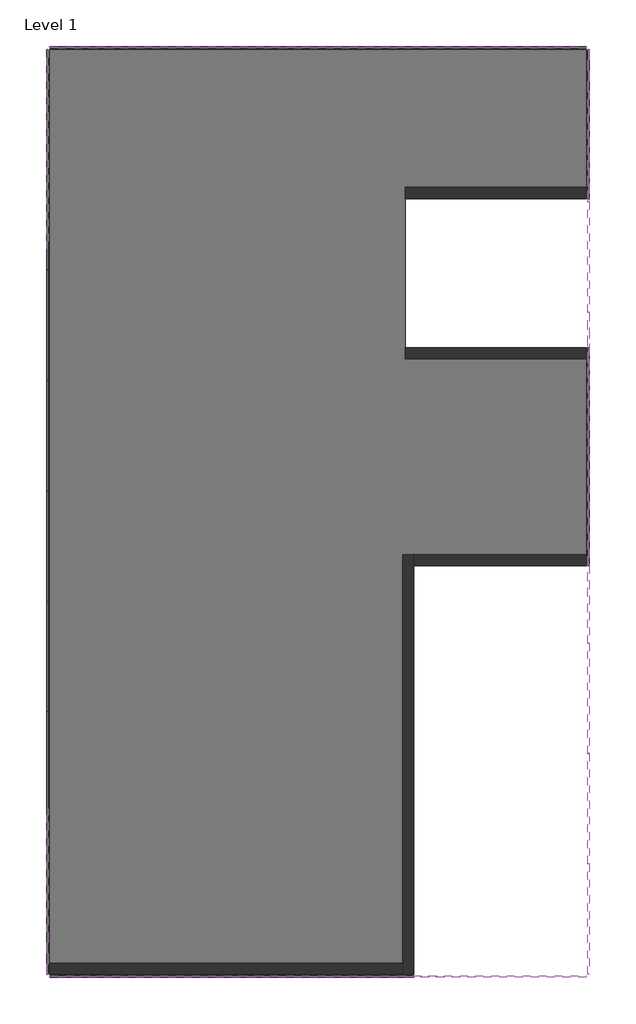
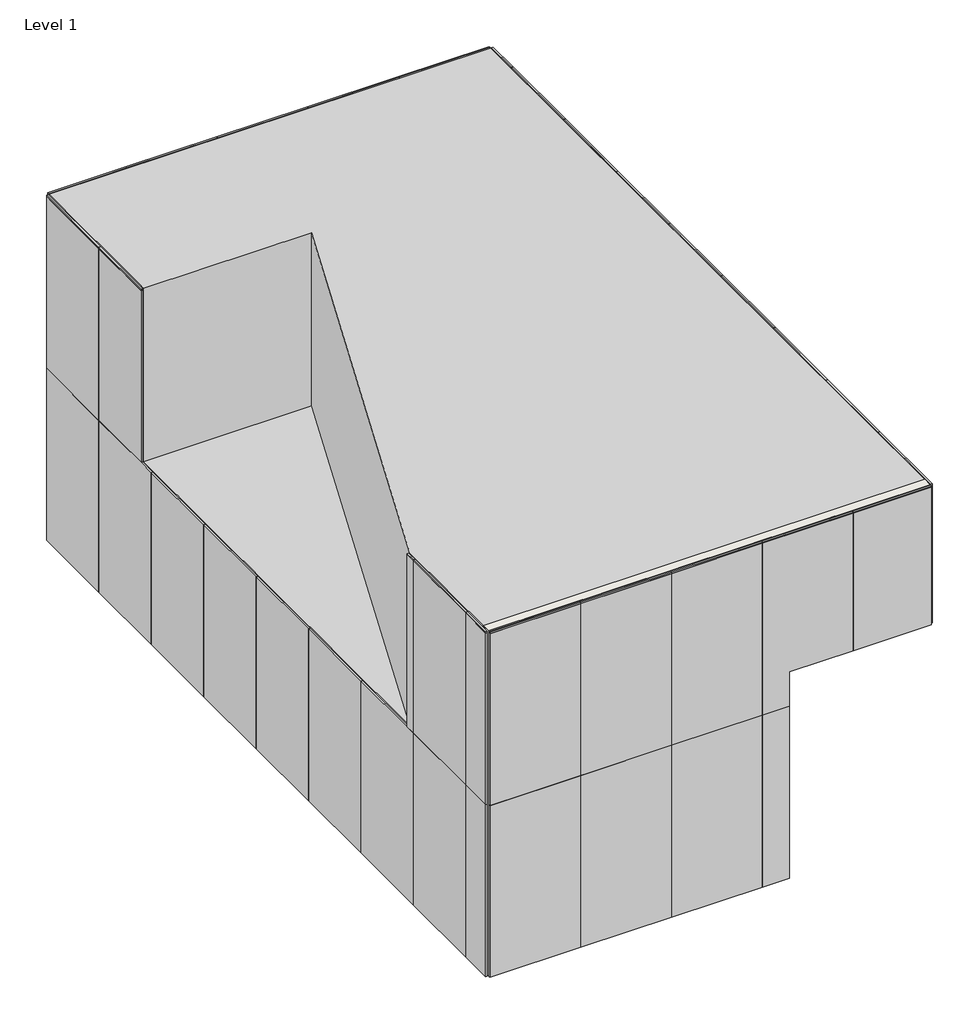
# One storey: 71 plates, 6 walls, 1 proxy.
"""IFC4 building model written with IfcOpenShell, lengths in millimetres."""

from ifc_helpers import new_model, si_unit, frame, origin, origin_with_axes, place, context, project, spatial, polyline, outline, extrude, faceted_brep, transform, mapped, element, save
from components import system_panel_glazed_9c75bc08, system_panel_glazed_dbbce7d1, system_panel_glazed_bcc47ddd, system_panel_glazed_01975426, system_panel_glazed_f9cdfe77, system_panel_glazed_33b4a288, system_panel_glazed_9cc7ea48, system_panel_glazed_2c779381, system_panel_glazed_080bd1f7, system_panel_glazed_f0492a79, system_panel_glazed_e3323f67, system_panel_glazed_fbe2ae63, system_panel_glazed_bfb795b8, system_panel_glazed_c9160bb2, system_panel_glazed_3cc902e7, system_panel_glazed_dad0aab0, system_panel_glazed_8171abf2, system_panel_glazed_a35de711, system_panel_glazed_52484c66, system_panel_glazed_7daea989, system_panel_glazed_eb9da898

model = new_model("IFC4")

# Units and contexts
model_context = context("Model", 3, world=origin())
ifc_project = project(units=[si_unit("LENGTHUNIT", "METRE", prefix="MILLI")], contexts=[model_context])

# Site, building, storey
site = spatial("IfcSite", under=ifc_project)
building = spatial("IfcBuilding", under=site)
storey = spatial("IfcBuildingStorey", under=building, Name="Level 1", Elevation=0.0)

# Proxy
placement = place(None, origin())
element("IfcBuildingElementProxy", 1, Name="Mass 1 : Mass 1", ObjectType="Mass 1 : Mass 1", at=placement, inside=storey, context=model_context, shape_type="Brep", body=[
    faceted_brep([(-622.4265962, 14992.5728951, 6120.0243608), (-8031.2536198, 14992.5728951, 6120.0243608), (-8031.2536198, 12243.8485961, 6120.0243608), (-5216.5646482, 12243.8485961, 6120.0243608), (-8031.2536198, 4510.5542041, 6120.0243608), (-8031.2536198, 2224.5542041, 6120.0243608), (-622.4265962, 2224.5542041, 6120.0243608), (-8031.2536198, 2224.5542041, 0.0), (-8031.2536198, 14992.5728951, 0.0), (-622.4265962, 14992.5728951, 0.0), (-622.4265962, 12938.7637381, 0.0), (-3119.607438, 12938.7637381, 0.0), (-3119.607438, 10878.7983929, 0.0), (-622.4265962, 10878.7983929, 0.0), (-622.4265962, 7863.3542041, 0.0), (-3002.0536198, 7863.3542041, 0.0), (-3002.0536198, 2224.5542041, 0.0), (-8031.2536198, 4510.5542041, 3048.0), (-8031.2536198, 12243.8485961, 3048.0), (-3002.0536198, 2224.5542041, 3657.6), (-622.4265962, 2224.5542041, 3657.6), (-622.4265962, 7863.3542041, 3657.6), (-622.4265962, 10878.7983929, 3657.6), (-622.4265962, 12938.7637381, 3657.6), (-3002.0536198, 7863.3542041, 3657.6), (-3119.607438, 12938.7637381, 3657.6), (-3119.607438, 10878.7983929, 3657.6), (-5216.5646482, 12243.8485961, 3048.0)], [[[0, 1, 2, 3, 4, 5, 6]], [[7, 8, 9, 10, 11, 12, 13, 14, 15, 16]], [[1, 0, 9, 8]], [[8, 7, 5, 4, 17, 18, 2, 1]], [[6, 5, 7, 16, 19, 20]], [[0, 6, 20, 21, 14, 13, 22, 23, 10, 9]], [[19, 24, 21, 20]], [[25, 23, 22, 26]], [[21, 24, 15, 14]], [[24, 19, 16, 15]], [[25, 26, 12, 11]], [[26, 22, 13, 12]], [[23, 25, 11, 10]], [[27, 18, 17]], [[18, 27, 3, 2]], [[27, 17, 4, 3]]]),
])

# Plates
system_panel_glazed_shape = system_panel_glazed_9c75bc08(model_context)
element("IfcPlate", 2, ObjectType="System Panel : Glazed", at=placement, inside=storey, context=model_context, shape_type="MappedRepresentation", body=[
    mapped(system_panel_glazed_shape, transform((-7269.2536198, 2224.5542041, 0.0), x_axis=(1.0, 0.0, 0.0), y_axis=(0.0, 1.0, 0.0), z_axis=(0.0, 0.0, 1.0))),
])
element("IfcPlate", 3, ObjectType="System Panel : Glazed", at=placement, inside=storey, context=model_context, shape_type="MappedRepresentation", body=[
    mapped(system_panel_glazed_shape, transform((-5745.2536198, 2224.5542041, 0.0), x_axis=(1.0, 0.0, 0.0), y_axis=(0.0, 1.0, 0.0), z_axis=(0.0, 0.0, 1.0))),
])
element("IfcPlate", 4, ObjectType="System Panel : Glazed", at=placement, inside=storey, context=model_context, shape_type="MappedRepresentation", body=[
    mapped(system_panel_glazed_shape, transform((-4221.2536198, 2224.5542041, 0.0), x_axis=(1.0, 0.0, 0.0), y_axis=(0.0, 1.0, 0.0), z_axis=(0.0, 0.0, 1.0))),
])
element("IfcPlate", 5, ObjectType="System Panel : Glazed", at=placement, inside=storey, context=model_context, shape_type="MappedRepresentation", body=[
    mapped(system_panel_glazed_shape, transform((-7269.2536198, 2224.5542041, 3048.0), x_axis=(1.0, 0.0, 0.0), y_axis=(0.0, 1.0, 0.0), z_axis=(0.0, 0.0, 1.0))),
])
element("IfcPlate", 6, ObjectType="System Panel : Glazed", at=placement, inside=storey, context=model_context, shape_type="MappedRepresentation", body=[
    mapped(system_panel_glazed_shape, transform((-5745.2536198, 2224.5542041, 3048.0), x_axis=(1.0, 0.0, 0.0), y_axis=(0.0, 1.0, 0.0), z_axis=(0.0, 0.0, 1.0))),
])
element("IfcPlate", 7, ObjectType="System Panel : Glazed", at=placement, inside=storey, context=model_context, shape_type="MappedRepresentation", body=[
    mapped(system_panel_glazed_shape, transform((-4221.2536198, 2224.5542041, 3048.0), x_axis=(1.0, 0.0, 0.0), y_axis=(0.0, 1.0, 0.0), z_axis=(0.0, 0.0, 1.0))),
])
element("IfcPlate", 8, ObjectType="System Panel : Glazed", at=placement, inside=storey, context=model_context, shape_type="MappedRepresentation", body=[
    mapped(system_panel_glazed_shape, transform((-622.4265962, 9082.5542041, 0.0), x_axis=(0.0, 1.0, 0.0), y_axis=(-1.0, 0.0, 0.0), z_axis=(0.0, 0.0, 1.0))),
])
element("IfcPlate", 9, ObjectType="System Panel : Glazed", at=placement, inside=storey, context=model_context, shape_type="MappedRepresentation", body=[
    mapped(system_panel_glazed_shape, transform((-622.4265962, 9082.5542041, 3048.0), x_axis=(0.0, 1.0, 0.0), y_axis=(-1.0, 0.0, 0.0), z_axis=(0.0, 0.0, 1.0))),
])
element("IfcPlate", 10, ObjectType="System Panel : Glazed", at=placement, inside=storey, context=model_context, shape_type="MappedRepresentation", body=[
    mapped(system_panel_glazed_shape, transform((-1384.4265962, 14992.5728951, 0.0), x_axis=(-1.0, 0.0, 0.0), y_axis=(0.0, -1.0, 0.0), z_axis=(0.0, 0.0, 1.0))),
])
element("IfcPlate", 11, ObjectType="System Panel : Glazed", at=placement, inside=storey, context=model_context, shape_type="MappedRepresentation", body=[
    mapped(system_panel_glazed_shape, transform((-2908.4265962, 14992.5728951, 0.0), x_axis=(-1.0, 0.0, 0.0), y_axis=(0.0, -1.0, 0.0), z_axis=(0.0, 0.0, 1.0))),
])
element("IfcPlate", 12, ObjectType="System Panel : Glazed", at=placement, inside=storey, context=model_context, shape_type="MappedRepresentation", body=[
    mapped(system_panel_glazed_shape, transform((-4432.4265962, 14992.5728951, 0.0), x_axis=(-1.0, 0.0, 0.0), y_axis=(0.0, -1.0, 0.0), z_axis=(0.0, 0.0, 1.0))),
])
element("IfcPlate", 13, ObjectType="System Panel : Glazed", at=placement, inside=storey, context=model_context, shape_type="MappedRepresentation", body=[
    mapped(system_panel_glazed_shape, transform((-5956.4265962, 14992.5728951, 0.0), x_axis=(-1.0, 0.0, 0.0), y_axis=(0.0, -1.0, 0.0), z_axis=(0.0, 0.0, 1.0))),
])
element("IfcPlate", 14, ObjectType="System Panel : Glazed", at=placement, inside=storey, context=model_context, shape_type="MappedRepresentation", body=[
    mapped(system_panel_glazed_shape, transform((-1384.4265962, 14992.5728951, 3048.0), x_axis=(-1.0, 0.0, 0.0), y_axis=(0.0, -1.0, 0.0), z_axis=(0.0, 0.0, 1.0))),
])
element("IfcPlate", 15, ObjectType="System Panel : Glazed", at=placement, inside=storey, context=model_context, shape_type="MappedRepresentation", body=[
    mapped(system_panel_glazed_shape, transform((-2908.4265962, 14992.5728951, 3048.0), x_axis=(-1.0, 0.0, 0.0), y_axis=(0.0, -1.0, 0.0), z_axis=(0.0, 0.0, 1.0))),
])
element("IfcPlate", 16, ObjectType="System Panel : Glazed", at=placement, inside=storey, context=model_context, shape_type="MappedRepresentation", body=[
    mapped(system_panel_glazed_shape, transform((-4432.4265962, 14992.5728951, 3048.0), x_axis=(-1.0, 0.0, 0.0), y_axis=(0.0, -1.0, 0.0), z_axis=(0.0, 0.0, 1.0))),
])
element("IfcPlate", 17, ObjectType="System Panel : Glazed", at=placement, inside=storey, context=model_context, shape_type="MappedRepresentation", body=[
    mapped(system_panel_glazed_shape, transform((-5956.4265962, 14992.5728951, 3048.0), x_axis=(-1.0, 0.0, 0.0), y_axis=(0.0, -1.0, 0.0), z_axis=(0.0, 0.0, 1.0))),
])
element("IfcPlate", 18, ObjectType="System Panel : Glazed", at=placement, inside=storey, context=model_context, shape_type="MappedRepresentation", body=[
    mapped(system_panel_glazed_shape, transform((-8031.2536198, 14230.5728951, 0.0), x_axis=(0.0, -1.0, 0.0), y_axis=(1.0, 0.0, 0.0), z_axis=(0.0, 0.0, 1.0))),
])
element("IfcPlate", 19, ObjectType="System Panel : Glazed", at=placement, inside=storey, context=model_context, shape_type="MappedRepresentation", body=[
    mapped(system_panel_glazed_shape, transform((-8031.2536198, 9658.5728951, 0.0), x_axis=(0.0, -1.0, 0.0), y_axis=(1.0, 0.0, 0.0), z_axis=(0.0, 0.0, 1.0))),
])
element("IfcPlate", 20, ObjectType="System Panel : Glazed", at=placement, inside=storey, context=model_context, shape_type="MappedRepresentation", body=[
    mapped(system_panel_glazed_shape, transform((-8031.2536198, 8134.5728951, 0.0), x_axis=(0.0, -1.0, 0.0), y_axis=(1.0, 0.0, 0.0), z_axis=(0.0, 0.0, 1.0))),
])
element("IfcPlate", 21, ObjectType="System Panel : Glazed", at=placement, inside=storey, context=model_context, shape_type="MappedRepresentation", body=[
    mapped(system_panel_glazed_shape, transform((-8031.2536198, 6610.5728951, 0.0), x_axis=(0.0, -1.0, 0.0), y_axis=(1.0, 0.0, 0.0), z_axis=(0.0, 0.0, 1.0))),
])
element("IfcPlate", 22, ObjectType="System Panel : Glazed", at=placement, inside=storey, context=model_context, shape_type="MappedRepresentation", body=[
    mapped(system_panel_glazed_shape, transform((-8031.2536198, 3562.5728951, 0.0), x_axis=(0.0, -1.0, 0.0), y_axis=(1.0, 0.0, 0.0), z_axis=(0.0, 0.0, 1.0))),
])
element("IfcPlate", 23, ObjectType="System Panel : Glazed", at=placement, inside=storey, context=model_context, shape_type="MappedRepresentation", body=[
    mapped(system_panel_glazed_shape, transform((-8031.2536198, 14230.5728951, 3048.0), x_axis=(0.0, -1.0, 0.0), y_axis=(1.0, 0.0, 0.0), z_axis=(0.0, 0.0, 1.0))),
])
element("IfcPlate", 24, ObjectType="System Panel : Glazed", at=placement, inside=storey, context=model_context, shape_type="MappedRepresentation", body=[
    mapped(system_panel_glazed_shape, transform((-8031.2536198, 3562.5728951, 3048.0), x_axis=(0.0, -1.0, 0.0), y_axis=(1.0, 0.0, 0.0), z_axis=(0.0, 0.0, 1.0))),
])
element("IfcPlate", 25, ObjectType="System Panel : Glazed", at=placement, inside=storey, context=model_context, shape_type="MappedRepresentation", body=[
    mapped(system_panel_glazed_shape, transform((-8031.2536198, 11182.5728951, 0.0), x_axis=(0.0, -1.0, 0.0), y_axis=(1.0, 0.0, 0.0), z_axis=(0.0, 0.0, 1.0))),
])
system_panel_glazed_2_shape = system_panel_glazed_dbbce7d1(model_context)
element("IfcPlate", 26, ObjectType="System Panel : Glazed", at=placement, inside=storey, context=model_context, shape_type="MappedRepresentation", body=[
    mapped(system_panel_glazed_2_shape, transform((-3230.6536198, 2224.5542041, 0.0), x_axis=(1.0, 0.0, 0.0), y_axis=(0.0, 1.0, 0.0), z_axis=(0.0, 0.0, 1.0))),
])
element("IfcPlate", 27, ObjectType="System Panel : Glazed", at=placement, inside=storey, context=model_context, shape_type="MappedRepresentation", body=[
    mapped(system_panel_glazed_2_shape, transform((-622.4265962, 8091.9542041, 0.0), x_axis=(0.0, 1.0, 0.0), y_axis=(-1.0, 0.0, 0.0), z_axis=(0.0, 0.0, 1.0))),
])
system_panel_glazed_3_shape = system_panel_glazed_bcc47ddd(model_context)
element("IfcPlate", 28, ObjectType="System Panel : Glazed", at=placement, inside=storey, context=model_context, shape_type="MappedRepresentation", body=[
    mapped(system_panel_glazed_3_shape, transform((-622.4265962, 10361.6762985, 0.0), x_axis=(0.0, 1.0, 0.0), y_axis=(-1.0, 0.0, 0.0), z_axis=(0.0, 0.0, 1.0))),
])
system_panel_glazed_4_shape = system_panel_glazed_01975426(model_context)
element("IfcPlate", 29, ObjectType="System Panel : Glazed", at=placement, inside=storey, context=model_context, shape_type="MappedRepresentation", body=[
    mapped(system_panel_glazed_4_shape, transform((-622.4265962, 13677.6589711, 0.0), x_axis=(0.0, 1.0, 0.0), y_axis=(-1.0, 0.0, 0.0), z_axis=(0.0, 0.0, 1.0))),
])
system_panel_glazed_5_shape = system_panel_glazed_f9cdfe77(model_context)
element("IfcPlate", 30, ObjectType="System Panel : Glazed", at=placement, inside=storey, context=model_context, shape_type="MappedRepresentation", body=[
    mapped(system_panel_glazed_5_shape, transform((-622.4265962, 14704.5635496, 0.0), x_axis=(0.0, 1.0, 0.0), y_axis=(-1.0, 0.0, 0.0), z_axis=(0.0, 0.0, 1.0))),
])
element("IfcPlate", 31, ObjectType="System Panel : Glazed", at=placement, inside=storey, context=model_context, shape_type="MappedRepresentation", body=[
    mapped(system_panel_glazed_5_shape, transform((-622.4265962, 14704.5635496, 3048.0), x_axis=(0.0, 1.0, 0.0), y_axis=(-1.0, 0.0, 0.0), z_axis=(0.0, 0.0, 1.0))),
])
element("IfcPlate", 32, ObjectType="System Panel : Glazed", at=placement, inside=storey, context=model_context, shape_type="MappedRepresentation", body=[
    mapped(system_panel_glazed_5_shape, transform((-8031.2536198, 2512.5635496, 0.0), x_axis=(0.0, -1.0, 0.0), y_axis=(1.0, 0.0, 0.0), z_axis=(0.0, 0.0, 1.0))),
])
element("IfcPlate", 33, ObjectType="System Panel : Glazed", at=placement, inside=storey, context=model_context, shape_type="MappedRepresentation", body=[
    mapped(system_panel_glazed_5_shape, transform((-8031.2536198, 2512.5635496, 3048.0), x_axis=(0.0, -1.0, 0.0), y_axis=(1.0, 0.0, 0.0), z_axis=(0.0, 0.0, 1.0))),
])
system_panel_glazed_6_shape = system_panel_glazed_33b4a288(model_context)
element("IfcPlate", 34, ObjectType="System Panel : Glazed", at=placement, inside=storey, context=model_context, shape_type="MappedRepresentation", body=[
    mapped(system_panel_glazed_6_shape, transform((-7374.840108, 14992.5728951, 0.0), x_axis=(-1.0, 0.0, 0.0), y_axis=(0.0, -1.0, 0.0), z_axis=(0.0, 0.0, 1.0))),
])
element("IfcPlate", 35, ObjectType="System Panel : Glazed", at=placement, inside=storey, context=model_context, shape_type="MappedRepresentation", body=[
    mapped(system_panel_glazed_6_shape, transform((-7374.840108, 14992.5728951, 3048.0), x_axis=(-1.0, 0.0, 0.0), y_axis=(0.0, -1.0, 0.0), z_axis=(0.0, 0.0, 1.0))),
])
system_panel_glazed_7_shape = system_panel_glazed_9cc7ea48(model_context)
element("IfcPlate", 36, ObjectType="System Panel : Glazed", at=placement, inside=storey, context=model_context, shape_type="MappedRepresentation", body=[
    mapped(system_panel_glazed_7_shape, transform((-8031.2536198, 5086.5728951, 0.0), x_axis=(0.0, -1.0, 0.0), y_axis=(1.0, 0.0, 0.0), z_axis=(0.0, 0.0, 1.0))),
])
system_panel_glazed_8_shape = system_panel_glazed_2c779381(model_context)
element("IfcPlate", 37, ObjectType="System Panel : Glazed", at=placement, inside=storey, context=model_context, shape_type="MappedRepresentation", body=[
    mapped(system_panel_glazed_8_shape, transform((-2697.2536198, 2224.5542041, 3048.0), x_axis=(1.0, 0.0, 0.0), y_axis=(0.0, 1.0, 0.0), z_axis=(0.0, 0.0, 1.0))),
])
system_panel_glazed_9_shape = system_panel_glazed_080bd1f7(model_context)
element("IfcPlate", 38, ObjectType="System Panel : Glazed", at=placement, inside=storey, context=model_context, shape_type="MappedRepresentation", body=[
    mapped(system_panel_glazed_9_shape, transform((-1278.840108, 2224.5542041, 3657.6), x_axis=(1.0, 0.0, 0.0), y_axis=(0.0, 1.0, 0.0), z_axis=(0.0, 0.0, 1.0))),
])
system_panel_glazed_10_shape = system_panel_glazed_f0492a79(model_context)
element("IfcPlate", 39, ObjectType="System Panel : Glazed", at=placement, inside=storey, context=model_context, shape_type="MappedRepresentation", body=[
    mapped(system_panel_glazed_10_shape, transform((-622.4265962, 2986.5542041, 3657.6), x_axis=(0.0, 1.0, 0.0), y_axis=(-1.0, 0.0, 0.0), z_axis=(0.0, 0.0, 1.0))),
])
element("IfcPlate", 40, ObjectType="System Panel : Glazed", at=placement, inside=storey, context=model_context, shape_type="MappedRepresentation", body=[
    mapped(system_panel_glazed_10_shape, transform((-622.4265962, 12130.5542041, 3657.6), x_axis=(0.0, 1.0, 0.0), y_axis=(-1.0, 0.0, 0.0), z_axis=(0.0, 0.0, 1.0))),
])
element("IfcPlate", 41, ObjectType="System Panel : Glazed", at=placement, inside=storey, context=model_context, shape_type="MappedRepresentation", body=[
    mapped(system_panel_glazed_10_shape, transform((-622.4265962, 4510.5542041, 3657.6), x_axis=(0.0, 1.0, 0.0), y_axis=(-1.0, 0.0, 0.0), z_axis=(0.0, 0.0, 1.0))),
])
element("IfcPlate", 42, ObjectType="System Panel : Glazed", at=placement, inside=storey, context=model_context, shape_type="MappedRepresentation", body=[
    mapped(system_panel_glazed_10_shape, transform((-622.4265962, 6034.5542041, 3657.6), x_axis=(0.0, 1.0, 0.0), y_axis=(-1.0, 0.0, 0.0), z_axis=(0.0, 0.0, 1.0))),
])
system_panel_glazed_11_shape = system_panel_glazed_e3323f67(model_context)
element("IfcPlate", 43, ObjectType="System Panel : Glazed", at=placement, inside=storey, context=model_context, shape_type="MappedRepresentation", body=[
    mapped(system_panel_glazed_11_shape, transform((-622.4265962, 7558.5542041, 3048.0), x_axis=(0.0, 1.0, 0.0), y_axis=(-1.0, 0.0, 0.0), z_axis=(0.0, 0.0, 1.0))),
])
system_panel_glazed_12_shape = system_panel_glazed_fbe2ae63(model_context)
element("IfcPlate", 44, ObjectType="System Panel : Glazed", at=placement, inside=storey, context=model_context, shape_type="MappedRepresentation", body=[
    mapped(system_panel_glazed_12_shape, transform((-622.4265962, 10606.5542041, 3048.0), x_axis=(0.0, 1.0, 0.0), y_axis=(-1.0, 0.0, 0.0), z_axis=(0.0, 0.0, 1.0))),
])
system_panel_glazed_13_shape = system_panel_glazed_bfb795b8(model_context)
element("IfcPlate", 45, ObjectType="System Panel : Glazed", at=placement, inside=storey, context=model_context, shape_type="MappedRepresentation", body=[
    mapped(system_panel_glazed_13_shape, transform((-622.4265962, 13654.5542041, 3048.0), x_axis=(0.0, 1.0, 0.0), y_axis=(-1.0, 0.0, 0.0), z_axis=(0.0, 0.0, 1.0))),
])
system_panel_glazed_14_shape = system_panel_glazed_c9160bb2(model_context)
element("IfcPlate", 46, ObjectType="System Panel : Glazed", at=placement, inside=storey, context=model_context, shape_type="MappedRepresentation", body=[
    mapped(system_panel_glazed_14_shape, transform((-8031.2536198, 4417.5635496, 3048.0), x_axis=(0.0, -1.0, 0.0), y_axis=(1.0, 0.0, 0.0), z_axis=(0.0, 0.0, 1.0))),
])
system_panel_glazed_15_shape = system_panel_glazed_3cc902e7(model_context)
element("IfcPlate", 47, ObjectType="System Panel : Glazed", at=placement, inside=storey, context=model_context, shape_type="MappedRepresentation", body=[
    mapped(system_panel_glazed_15_shape, transform((-7269.2536198, 2224.5542041, 6096.0), x_axis=(1.0, 0.0, 0.0), y_axis=(0.0, 1.0, 0.0), z_axis=(0.0, 0.0, 1.0))),
])
element("IfcPlate", 48, ObjectType="System Panel : Glazed", at=placement, inside=storey, context=model_context, shape_type="MappedRepresentation", body=[
    mapped(system_panel_glazed_15_shape, transform((-5745.2536198, 2224.5542041, 6096.0), x_axis=(1.0, 0.0, 0.0), y_axis=(0.0, 1.0, 0.0), z_axis=(0.0, 0.0, 1.0))),
])
element("IfcPlate", 49, ObjectType="System Panel : Glazed", at=placement, inside=storey, context=model_context, shape_type="MappedRepresentation", body=[
    mapped(system_panel_glazed_15_shape, transform((-4221.2536198, 2224.5542041, 6096.0), x_axis=(1.0, 0.0, 0.0), y_axis=(0.0, 1.0, 0.0), z_axis=(0.0, 0.0, 1.0))),
])
element("IfcPlate", 50, ObjectType="System Panel : Glazed", at=placement, inside=storey, context=model_context, shape_type="MappedRepresentation", body=[
    mapped(system_panel_glazed_15_shape, transform((-2697.2536198, 2224.5542041, 6096.0), x_axis=(1.0, 0.0, 0.0), y_axis=(0.0, 1.0, 0.0), z_axis=(0.0, 0.0, 1.0))),
])
element("IfcPlate", 51, ObjectType="System Panel : Glazed", at=placement, inside=storey, context=model_context, shape_type="MappedRepresentation", body=[
    mapped(system_panel_glazed_15_shape, transform((-622.4265962, 2986.5542041, 6096.0), x_axis=(0.0, 1.0, 0.0), y_axis=(-1.0, 0.0, 0.0), z_axis=(0.0, 0.0, 1.0))),
])
element("IfcPlate", 52, ObjectType="System Panel : Glazed", at=placement, inside=storey, context=model_context, shape_type="MappedRepresentation", body=[
    mapped(system_panel_glazed_15_shape, transform((-622.4265962, 4510.5542041, 6096.0), x_axis=(0.0, 1.0, 0.0), y_axis=(-1.0, 0.0, 0.0), z_axis=(0.0, 0.0, 1.0))),
])
element("IfcPlate", 53, ObjectType="System Panel : Glazed", at=placement, inside=storey, context=model_context, shape_type="MappedRepresentation", body=[
    mapped(system_panel_glazed_15_shape, transform((-622.4265962, 6034.5542041, 6096.0), x_axis=(0.0, 1.0, 0.0), y_axis=(-1.0, 0.0, 0.0), z_axis=(0.0, 0.0, 1.0))),
])
element("IfcPlate", 54, ObjectType="System Panel : Glazed", at=placement, inside=storey, context=model_context, shape_type="MappedRepresentation", body=[
    mapped(system_panel_glazed_15_shape, transform((-622.4265962, 7558.5542041, 6096.0), x_axis=(0.0, 1.0, 0.0), y_axis=(-1.0, 0.0, 0.0), z_axis=(0.0, 0.0, 1.0))),
])
element("IfcPlate", 55, ObjectType="System Panel : Glazed", at=placement, inside=storey, context=model_context, shape_type="MappedRepresentation", body=[
    mapped(system_panel_glazed_15_shape, transform((-622.4265962, 9082.5542041, 6096.0), x_axis=(0.0, 1.0, 0.0), y_axis=(-1.0, 0.0, 0.0), z_axis=(0.0, 0.0, 1.0))),
])
element("IfcPlate", 56, ObjectType="System Panel : Glazed", at=placement, inside=storey, context=model_context, shape_type="MappedRepresentation", body=[
    mapped(system_panel_glazed_15_shape, transform((-622.4265962, 10606.5542041, 6096.0), x_axis=(0.0, 1.0, 0.0), y_axis=(-1.0, 0.0, 0.0), z_axis=(0.0, 0.0, 1.0))),
])
element("IfcPlate", 57, ObjectType="System Panel : Glazed", at=placement, inside=storey, context=model_context, shape_type="MappedRepresentation", body=[
    mapped(system_panel_glazed_15_shape, transform((-622.4265962, 12130.5542041, 6096.0), x_axis=(0.0, 1.0, 0.0), y_axis=(-1.0, 0.0, 0.0), z_axis=(0.0, 0.0, 1.0))),
])
element("IfcPlate", 58, ObjectType="System Panel : Glazed", at=placement, inside=storey, context=model_context, shape_type="MappedRepresentation", body=[
    mapped(system_panel_glazed_15_shape, transform((-622.4265962, 13654.5542041, 6096.0), x_axis=(0.0, 1.0, 0.0), y_axis=(-1.0, 0.0, 0.0), z_axis=(0.0, 0.0, 1.0))),
])
element("IfcPlate", 59, ObjectType="System Panel : Glazed", at=placement, inside=storey, context=model_context, shape_type="MappedRepresentation", body=[
    mapped(system_panel_glazed_15_shape, transform((-1384.4265962, 14992.5728951, 6096.0), x_axis=(-1.0, 0.0, 0.0), y_axis=(0.0, -1.0, 0.0), z_axis=(0.0, 0.0, 1.0))),
])
element("IfcPlate", 60, ObjectType="System Panel : Glazed", at=placement, inside=storey, context=model_context, shape_type="MappedRepresentation", body=[
    mapped(system_panel_glazed_15_shape, transform((-2908.4265962, 14992.5728951, 6096.0), x_axis=(-1.0, 0.0, 0.0), y_axis=(0.0, -1.0, 0.0), z_axis=(0.0, 0.0, 1.0))),
])
element("IfcPlate", 61, ObjectType="System Panel : Glazed", at=placement, inside=storey, context=model_context, shape_type="MappedRepresentation", body=[
    mapped(system_panel_glazed_15_shape, transform((-4432.4265962, 14992.5728951, 6096.0), x_axis=(-1.0, 0.0, 0.0), y_axis=(0.0, -1.0, 0.0), z_axis=(0.0, 0.0, 1.0))),
])
element("IfcPlate", 62, ObjectType="System Panel : Glazed", at=placement, inside=storey, context=model_context, shape_type="MappedRepresentation", body=[
    mapped(system_panel_glazed_15_shape, transform((-5956.4265962, 14992.5728951, 6096.0), x_axis=(-1.0, 0.0, 0.0), y_axis=(0.0, -1.0, 0.0), z_axis=(0.0, 0.0, 1.0))),
])
element("IfcPlate", 63, ObjectType="System Panel : Glazed", at=placement, inside=storey, context=model_context, shape_type="MappedRepresentation", body=[
    mapped(system_panel_glazed_15_shape, transform((-8031.2536198, 14230.5728951, 6096.0), x_axis=(0.0, -1.0, 0.0), y_axis=(1.0, 0.0, 0.0), z_axis=(0.0, 0.0, 1.0))),
])
element("IfcPlate", 64, ObjectType="System Panel : Glazed", at=placement, inside=storey, context=model_context, shape_type="MappedRepresentation", body=[
    mapped(system_panel_glazed_15_shape, transform((-8031.2536198, 3562.5728951, 6096.0), x_axis=(0.0, -1.0, 0.0), y_axis=(1.0, 0.0, 0.0), z_axis=(0.0, 0.0, 1.0))),
])
system_panel_glazed_16_shape = system_panel_glazed_dad0aab0(model_context)
element("IfcPlate", 65, ObjectType="System Panel : Glazed", at=placement, inside=storey, context=model_context, shape_type="MappedRepresentation", body=[
    mapped(system_panel_glazed_16_shape, transform((-1278.840108, 2224.5542041, 6096.0), x_axis=(1.0, 0.0, 0.0), y_axis=(0.0, 1.0, 0.0), z_axis=(0.0, 0.0, 1.0))),
])
element("IfcPlate", 66, ObjectType="System Panel : Glazed", at=placement, inside=storey, context=model_context, shape_type="MappedRepresentation", body=[
    mapped(system_panel_glazed_16_shape, transform((-7374.840108, 14992.5728951, 6096.0), x_axis=(-1.0, 0.0, 0.0), y_axis=(0.0, -1.0, 0.0), z_axis=(0.0, 0.0, 1.0))),
])
system_panel_glazed_17_shape = system_panel_glazed_8171abf2(model_context)
element("IfcPlate", 67, ObjectType="System Panel : Glazed", at=placement, inside=storey, context=model_context, shape_type="MappedRepresentation", body=[
    mapped(system_panel_glazed_17_shape, transform((-622.4265962, 14704.5635496, 6096.0), x_axis=(0.0, 1.0, 0.0), y_axis=(-1.0, 0.0, 0.0), z_axis=(0.0, 0.0, 1.0))),
])
element("IfcPlate", 68, ObjectType="System Panel : Glazed", at=placement, inside=storey, context=model_context, shape_type="MappedRepresentation", body=[
    mapped(system_panel_glazed_17_shape, transform((-8031.2536198, 2512.5635496, 6096.0), x_axis=(0.0, -1.0, 0.0), y_axis=(1.0, 0.0, 0.0), z_axis=(0.0, 0.0, 1.0))),
])
system_panel_glazed_18_shape = system_panel_glazed_a35de711(model_context)
element("IfcPlate", 69, ObjectType="System Panel : Glazed", at=placement, inside=storey, context=model_context, shape_type="MappedRepresentation", body=[
    mapped(system_panel_glazed_18_shape, transform((-8031.2536198, 12706.5728951, 0.0), x_axis=(0.0, -1.0, 0.0), y_axis=(1.0, 0.0, 0.0), z_axis=(0.0, 0.0, 1.0))),
])
system_panel_glazed_19_shape = system_panel_glazed_52484c66(model_context)
element("IfcPlate", 70, ObjectType="System Panel : Glazed", at=placement, inside=storey, context=model_context, shape_type="MappedRepresentation", body=[
    mapped(system_panel_glazed_19_shape, transform((-8031.2536198, 12856.2107456, 3048.0), x_axis=(0.0, -1.0, 0.0), y_axis=(1.0, 0.0, 0.0), z_axis=(0.0, 0.0, 1.0))),
])
system_panel_glazed_20_shape = system_panel_glazed_7daea989(model_context)
element("IfcPlate", 71, ObjectType="System Panel : Glazed", at=placement, inside=storey, context=model_context, shape_type="MappedRepresentation", body=[
    mapped(system_panel_glazed_20_shape, transform((-8031.2536198, 12856.2107456, 6096.0), x_axis=(0.0, -1.0, 0.0), y_axis=(1.0, 0.0, 0.0), z_axis=(0.0, 0.0, 1.0))),
])
system_panel_glazed_21_shape = system_panel_glazed_eb9da898(model_context)
element("IfcPlate", 72, ObjectType="System Panel : Glazed", at=placement, inside=storey, context=model_context, shape_type="MappedRepresentation", body=[
    mapped(system_panel_glazed_21_shape, transform((-8031.2536198, 4417.5635496, 6096.0), x_axis=(0.0, -1.0, 0.0), y_axis=(1.0, 0.0, 0.0), z_axis=(0.0, 0.0, 1.0))),
])

# Walls
element("IfcWall", 73, ObjectType="Generic - 6\"", at=placement, inside=storey, context=model_context, shape_type="Brep", body=[
    faceted_brep([(-3154.4536198, 8015.7542041, 0.0), (-3154.4536198, 2376.9542041, 0.0), (-3154.4536198, 2224.5542041, 0.0), (-3154.4536198, 2224.5542041, 3657.6), (-3154.4536198, 2376.9542041, 3657.6), (-3154.4536198, 8015.7542041, 3657.6), (-3002.0536198, 8015.7542041, 0.0), (-3002.0536198, 8015.7542041, 3657.6), (-3002.0536198, 7863.3542041, 3657.6), (-3002.0536198, 2224.5542041, 3657.6), (-3002.0536198, 2224.5542041, 0.0), (-3002.0536198, 7863.3542041, 0.0)], [[[0, 1, 2, 3, 4, 5]], [[6, 7, 8, 9, 10, 11]], [[2, 1, 0, 6, 11, 10]], [[3, 2, 10, 9]], [[5, 4, 3, 9, 8, 7]], [[0, 5, 7, 6]]]),
])
element("IfcWall", 74, ObjectType="Generic - 6\"", at=placement, inside=storey, context=model_context, shape_type="SweptSolid", body=[
    extrude(outline(polyline([(-3002.0536198, 8015.7542041), (-622.4265962, 8015.7542041), (-622.4265962, 7863.3542041), (-3002.0536198, 7863.3542041), (-3002.0536198, 8015.7542041)])), origin_with_axes(), (0.0, 0.0, 1.0), 3657.6),
])
element("IfcWall", 75, ObjectType="Generic - 6\"", at=placement, inside=storey, context=model_context, shape_type="SweptSolid", body=[
    extrude(outline(polyline([(-3119.607438, 13091.1637381), (-622.4265962, 13091.1637381), (-622.4265962, 12938.7637381), (-3119.607438, 12938.7637381), (-3119.607438, 13091.1637381)])), origin_with_axes(), (0.0, 0.0, 1.0), 3657.6),
])
element("IfcWall", 76, ObjectType="Generic - 6\"", at=placement, inside=storey, context=model_context, shape_type="SweptSolid", body=[
    extrude(outline(polyline([(-622.4265962, 10726.3983929), (-3119.607438, 10726.3983929), (-3119.607438, 10878.7983929), (-622.4265962, 10878.7983929), (-622.4265962, 10726.3983929)])), origin_with_axes(), (0.0, 0.0, 1.0), 3657.6),
])
element("IfcWall", 77, ObjectType="Generic - 6\"", at=placement, inside=storey, context=model_context, shape_type="SweptSolid", body=[
    extrude(outline(polyline([(6120.0243608, -8031.2536198), (0.0, -8031.2536198), (0.0, -3154.4536198), (3657.6, -3154.4536198), (3657.6, -622.4265962), (6120.0243608, -622.4265962), (6120.0243608, -8031.2536198)])), frame((0.0, 2224.5542041, 0.0), z_axis=(0.0, 1.0, 0.0), x_axis=(0.0, 0.0, 1.0)), (0.0, 0.0, 1.0), 152.4),
])
element("IfcWall", 78, ObjectType="Generic - 6\"", at=placement, inside=storey, context=model_context, shape_type="SweptSolid", body=[
    extrude(outline(polyline([(6120.0243608, -8031.2536198), (0.0, -8031.2536198), (0.0, -3154.4536198), (3657.6, -3154.4536198), (3657.6, -622.4265962), (6120.0243608, -622.4265962), (6120.0243608, -8031.2536198)])), frame((0.0, 2224.5542041, 0.0), z_axis=(0.0, 1.0, 0.0), x_axis=(0.0, 0.0, 1.0)), (0.0, 0.0, 1.0), 152.4),
])

save(model, "model.ifc")
